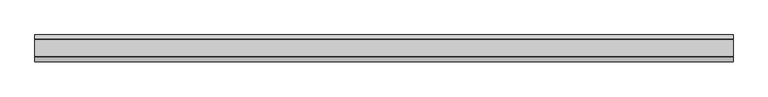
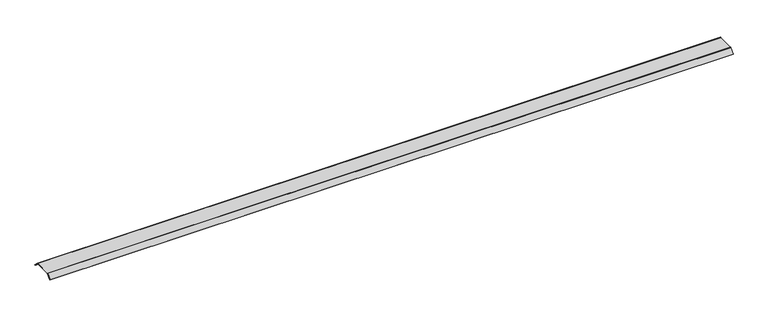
"""IFC4 building model written with IfcOpenShell, lengths in millimetres: proxy geometry, Electrical_Installation_Hager_Blank-Cover-800mm-Double-Sided-Height-40mm : Electrical_Installation_Hager_Blank-Cover-800mm-Double-Sided-Height-40mm."""

from ifc_helpers import new_model, si_unit, point, frame, frame_2d, origin, place, context, project, spatial, polyline, circle_curve, trimmed, segment, composite_curve, outline, extrude, source, transform, mapped, element, save


def electrical_fixtures_9ca14389(model_context):
    return source(origin(), model_context, "Body", "SweptSolid", [
        extrude(outline(composite_curve([segment(trimmed(circle_curve(frame_2d((73.9838855, 19.0468826)), 6.4531174), [point((73.9838855, 25.5))], [point((78.5469286, 23.6099257))], False, "CARTESIAN"), True, "CONTINUOUS"), segment(polyline([(78.5469286, 23.6099257), (115.0386103, -12.8817561), (112.91729, -15.0030764), (76.2293119, 21.6849016)]), True, "CONTINUOUS"), segment(trimmed(circle_curve(frame_2d((74.2614904, 19.7170801)), 2.7829199), [point((76.2293119, 21.6849016))], [point((74.2614904, 22.5))], True, "CARTESIAN"), True, "CONTINUOUS"), segment(polyline([(74.2614904, 22.5), (-74.8229541, 22.5)]), True, "CONTINUOUS"), segment(trimmed(circle_curve(frame_2d((-74.8229541, 21.0725733)), 1.4274267), [point((-74.8229541, 22.5))], [point((-75.8322972, 22.0819164))], True, "CARTESIAN"), True, "CONTINUOUS"), segment(polyline([(-75.8322972, 22.0819164), (-112.91729, -15.0030764), (-115.0386103, -12.8817561), (-77.8206472, 24.336207)]), True, "CONTINUOUS"), segment(trimmed(circle_curve(frame_2d((-75.0110025, 21.5265623)), 3.9734377), [point((-77.8206472, 24.336207))], [point((-75.0110025, 25.5))], False, "CARTESIAN"), True, "CONTINUOUS"), segment(polyline([(-75.0110025, 25.5), (73.9838855, 25.5)]), True, "CONTINUOUS")], self_intersect=False)), frame((0.0, 0.0, 0.0), z_axis=(1.0, 0.0, 0.0), x_axis=(0.0, 1.0, 0.0)), (0.0, 0.0, 1.0), 6011.6956759),
    ])


if __name__ == "__main__":
    model = new_model("IFC4")
    model_context = context("Model", 3, world=origin())
    ifc_project = project(units=[si_unit("LENGTHUNIT", "METRE", prefix="MILLI")], contexts=[model_context])
    site = spatial("IfcSite", under=ifc_project)
    building = spatial("IfcBuilding", under=site)
    placement = place(None, origin())
    electrical_fixtures_shape = electrical_fixtures_9ca14389(model_context)
    element("IfcBuildingElementProxy", 1, Name="Electrical_Installation_Hager_Blank-Cover-800mm-Double-Sided-Height-40mm : Electrical_Installation_Hager_Blank-Cover-800mm-Double-Sided-Height-40mm", ObjectType="Electrical_Installation_Hager_Blank-Cover-800mm-Double-Sided-Height-40mm : Electrical_Installation_Hager_Blank-Cover-800mm-Double-Sided-Height-40mm", at=placement, inside=building, context=model_context, shape_type="MappedRepresentation", body=[
        mapped(electrical_fixtures_shape, transform((0.0, 0.0, 0.0), x_axis=(1.0, 0.0, 0.0), y_axis=(0.0, 1.0, 0.0), z_axis=(0.0, 0.0, 1.0))),
    ])
    save(model, "model.ifc")
